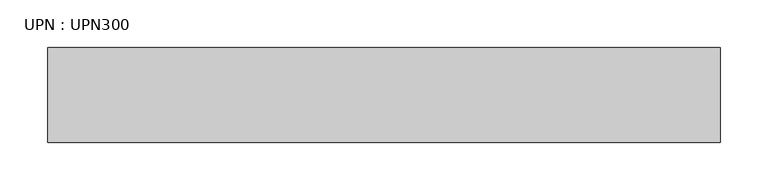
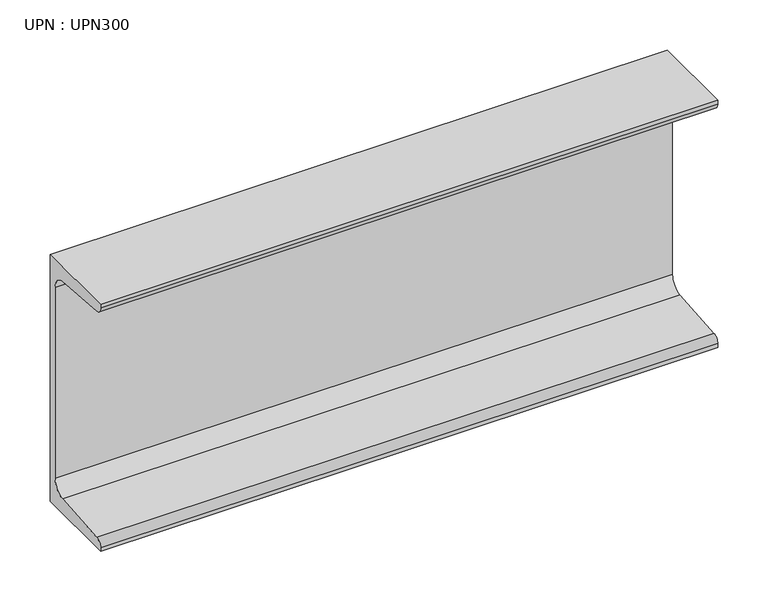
"""IFC4 building model written with IfcOpenShell, lengths in millimetres: beam geometry, UPN : UPN300."""

import ifcopenshell
import ifcopenshell.guid

model = None  # the IFC model being written
_history = None  # IfcOwnerHistory: only IFC2X3 demands one
_inside = {}  # id of a spatial element -> (the spatial element, [elements in it])
_under = {}  # id of a project, library or spatial element -> (it, [spatial elements below it])
_declared = {}  # id of a project -> (the project, [libraries it declares])
_typed = {}  # id of a type object -> (the type object, [elements of that type])
_made_of = {}  # id of a material, layer set ... -> (it, [elements and type objects made of it])


def new_model(schema):
    """Start an empty IFC model of exactly this schema.

    Asked for "IFC4X3", IfcOpenShell would pick the latest addendum, in which some entities
    have other attributes; the version numbers below select the first issue.
    IFC2X3 requires an IfcOwnerHistory on every rooted entity: one is made here for all.
    """
    global model, _history
    if schema == "IFC4X3":
        model = ifcopenshell.file(schema_version=(4, 3, 0, 0))
    else:
        model = ifcopenshell.file(schema=schema)
    _inside.clear()
    _under.clear()
    _declared.clear()
    _typed.clear()
    _made_of.clear()
    _history = None
    if model.schema == "IFC2X3":
        org = make("IfcOrganization", Name="unknown")
        user = make(
            "IfcPersonAndOrganization",
            ThePerson=make("IfcPerson", FamilyName="unknown"),
            TheOrganization=org,
        )
        app = make(
            "IfcApplication",
            ApplicationDeveloper=org,
            Version="unknown",
            ApplicationFullName="unknown",
            ApplicationIdentifier="unknown",
        )
        _history = make(
            "IfcOwnerHistory",
            OwningUser=user,
            OwningApplication=app,
            ChangeAction="ADDED",
            CreationDate=0,
        )
    return model


def make(cls, **values):
    """One entity of the class cls with the attributes given. An attribute that is None is left unset."""
    return model.create_entity(
        cls, **{name: value for name, value in values.items() if value is not None}
    )


def rooted(cls, **values):
    """An entity with a GlobalId (a new one), such as an element, a storey or a relation."""
    return make(cls, GlobalId=ifcopenshell.guid.new(), OwnerHistory=_history, **values)


def si_unit(unit_type, name, prefix=None):
    """IfcSIUnit, for example si_unit("LENGTHUNIT", "METRE", prefix="MILLI")."""
    return make("IfcSIUnit", UnitType=unit_type, Prefix=prefix, Name=name)


def assignment(units):
    """IfcUnitAssignment: the units of a project."""
    return None if units is None else make("IfcUnitAssignment", Units=units)


def point(xyz):
    """IfcCartesianPoint."""
    return None if xyz is None else make("IfcCartesianPoint", Coordinates=xyz)


def direction(xyz):
    """IfcDirection."""
    return None if xyz is None else make("IfcDirection", DirectionRatios=xyz)


def frame(location, z_axis=None, x_axis=None):
    """IfcAxis2Placement3D, a coordinate frame: its origin and axes. An axis left out is left unset."""
    return make(
        "IfcAxis2Placement3D",
        Location=point(location),
        Axis=direction(z_axis),
        RefDirection=direction(x_axis),
    )


def frame_2d(location, x_axis=None):
    """IfcAxis2Placement2D, a coordinate frame in the plane: its origin and x axis."""
    return make(
        "IfcAxis2Placement2D", Location=point(location), RefDirection=direction(x_axis)
    )


def origin():
    """The frame at (0, 0, 0) with its axes left unset."""
    return frame((0.0, 0.0, 0.0))


def place(relative_to, where):
    """IfcLocalPlacement: puts the frame where relative to a parent placement (None: the world)."""
    return make(
        "IfcLocalPlacement", PlacementRelTo=relative_to, RelativePlacement=where
    )


def context(
    kind, dimensions, precision=None, world=None, true_north=None, identifier=None
):
    """IfcGeometricRepresentationContext, for example the 3D "Model" context."""
    return make(
        "IfcGeometricRepresentationContext",
        ContextIdentifier=identifier,
        ContextType=kind,
        CoordinateSpaceDimension=dimensions,
        Precision=precision,
        WorldCoordinateSystem=world,
        TrueNorth=true_north,
    )


def project(units=None, contexts=None):
    """IfcProject with its units and contexts."""
    return rooted(
        "IfcProject",
        Name="project",
        RepresentationContexts=contexts,
        UnitsInContext=assignment(units),
    )


def spatial(cls, under=None, at=None, **own):
    """A site, building, storey or space (cls), placed at a placement, below another one or the project."""
    s = rooted(cls, ObjectPlacement=at, **own)
    if under is not None:
        _under.setdefault(under.id(), (under, []))[1].append(s)
    return s


def polyline(points):
    """IfcPolyline through the points."""
    return make("IfcPolyline", Points=[point(p) for p in points])


def circle_curve(where, radius):
    """IfcCircle in the frame where."""
    return make("IfcCircle", Position=where, Radius=radius)


def trimmed(basis, trim1, trim2, sense, master):
    """IfcTrimmedCurve: the piece of a basis curve between two trims."""
    return make(
        "IfcTrimmedCurve",
        BasisCurve=basis,
        Trim1=trim1,
        Trim2=trim2,
        SenseAgreement=sense,
        MasterRepresentation=master,
    )


def segment(curve, same_sense, transition):
    """IfcCompositeCurveSegment."""
    return make(
        "IfcCompositeCurveSegment",
        Transition=transition,
        SameSense=same_sense,
        ParentCurve=curve,
    )


def composite_curve(segments, self_intersect=None):
    """IfcCompositeCurve: segments joined end to end."""
    return make("IfcCompositeCurve", Segments=segments, SelfIntersect=self_intersect)


def outline(outer, holes=None, kind="AREA"):
    """IfcArbitraryClosedProfileDef: a profile drawn as a closed curve; with holes, ...WithVoids."""
    if holes is None:
        return make("IfcArbitraryClosedProfileDef", ProfileType=kind, OuterCurve=outer)
    return make(
        "IfcArbitraryProfileDefWithVoids",
        ProfileType=kind,
        OuterCurve=outer,
        InnerCurves=holes,
    )


def extrude(swept, where, along, depth):
    """IfcExtrudedAreaSolid: the profile swept, set in the frame where, extruded along a direction by depth."""
    return make(
        "IfcExtrudedAreaSolid",
        SweptArea=swept,
        Position=where,
        ExtrudedDirection=direction(along),
        Depth=depth,
    )


def shape(context_of_items, identifier, shape_type, items):
    """IfcShapeRepresentation: the items that make up one representation, for example the "Body"."""
    return make(
        "IfcShapeRepresentation",
        ContextOfItems=context_of_items,
        RepresentationIdentifier=identifier,
        RepresentationType=shape_type,
        Items=items,
    )


def source(mapping_origin, context_of_items, identifier, shape_type, items):
    """IfcRepresentationMap: a shape defined once, which mapped items show again and again."""
    return make(
        "IfcRepresentationMap",
        MappingOrigin=mapping_origin,
        MappedRepresentation=shape(context_of_items, identifier, shape_type, items),
    )


def transform(
    local_origin,
    x_axis=None,
    y_axis=None,
    z_axis=None,
    scale=None,
    scale2=None,
    scale3=None,
    uniform=True,
):
    """IfcCartesianTransformationOperator3D, or its non-uniform kind. x_axis, y_axis, z_axis: its Axis1, 2, 3."""
    if uniform:
        return make(
            "IfcCartesianTransformationOperator3D",
            Axis1=direction(x_axis),
            Axis2=direction(y_axis),
            LocalOrigin=point(local_origin),
            Scale=scale,
            Axis3=direction(z_axis),
        )
    return make(
        "IfcCartesianTransformationOperator3DnonUniform",
        Axis1=direction(x_axis),
        Axis2=direction(y_axis),
        LocalOrigin=point(local_origin),
        Scale=scale,
        Axis3=direction(z_axis),
        Scale2=scale2,
        Scale3=scale3,
    )


def mapped(mapping_source, mapping_target):
    """IfcMappedItem: shows the shape of a source again, moved by a transform."""
    return make(
        "IfcMappedItem", MappingSource=mapping_source, MappingTarget=mapping_target
    )


def made_of(thing, what):
    """Note that an element or type object is made of a material, layer set ...; save() writes the relation."""
    if what is not None:
        _made_of.setdefault(what.id(), (what, []))[1].append(thing)
    return thing


def element(
    cls,
    number,
    at=None,
    inside=None,
    cuts=None,
    type_object=None,
    material=None,
    context=None,
    identifier="Body",
    shape_type=None,
    held_by="IfcProductDefinitionShape",
    body=None,
    shapes=None,
    **own,
):
    """One element of the class cls, such as IfcWall. Its Tag is "e" and its number.

    at: its placement. inside: the storey or other place that contains it. cuts: it is an
    opening in that element (IfcRelVoidsElement). A single representation is given by context,
    identifier, shape_type and body (its items); several are given by shapes. held_by: the class
    of the entity that holds the representations. save() writes the other relations.
    """
    e = rooted(cls, Tag="e%d" % number, ObjectPlacement=at, **own)
    if body is not None:
        shapes = [shape(context, identifier, shape_type, body)]
    if shapes is not None:
        e.Representation = make(held_by, Representations=shapes)
    if inside is not None:
        _inside.setdefault(inside.id(), (inside, []))[1].append(e)
    if cuts is not None:
        rooted(
            "IfcRelVoidsElement", RelatingBuildingElement=cuts, RelatedOpeningElement=e
        )
    if type_object is not None:
        _typed.setdefault(type_object.id(), (type_object, []))[1].append(e)
    return made_of(e, material)


def aggregate(whole, parts):
    """IfcRelAggregates: a whole, such as a stair, and the parts it consists of."""
    return rooted("IfcRelAggregates", RelatingObject=whole, RelatedObjects=parts)


def save(model, path):
    """Write the relations noted so far, then the file.

    IfcRelAggregates (storeys below a building ...), IfcRelContainedInSpatialStructure (elements
    in a storey), IfcRelDefinesByType, IfcRelAssociatesMaterial and IfcRelDeclares: one each for
    every whole, place, type object, material and project.
    """
    for whole, parts in _under.values():
        aggregate(whole, parts)
    for where, things in _inside.values():
        rooted(
            "IfcRelContainedInSpatialStructure",
            RelatedElements=things,
            RelatingStructure=where,
        )
    for kind, things in _typed.values():
        rooted("IfcRelDefinesByType", RelatedObjects=things, RelatingType=kind)
    for what, things in _made_of.values():
        rooted("IfcRelAssociatesMaterial", RelatedObjects=things, RelatingMaterial=what)
    for by, libraries in _declared.values():
        rooted("IfcRelDeclares", RelatingContext=by, RelatedDefinitions=libraries)
    model.write(path)


def upn_upn300_fed2250c(model_context):
    return source(origin(), model_context, "Body", "SweptSolid", [
        extrude(outline(composite_curve([segment(polyline([(27.0, 150.0), (27.0, -150.0), (-73.0, -150.0), (-73.0, -145.3826224)]), True, "CONTINUOUS"), segment(trimmed(circle_curve(frame_2d((-65.0, -145.3826224)), 8.0), [point((-73.0, -145.3826224))], [point((-65.637416, -137.4080566))], False, "CARTESIAN"), True, "CONTINUOUS"), segment(polyline([(-65.637416, -137.4080566), (2.274832, -131.9797543)]), True, "CONTINUOUS"), segment(trimmed(circle_curve(frame_2d((1.0, -116.0306225)), 16.0), [point((2.274832, -131.9797543))], [point((17.0, -116.0306225))], True, "CARTESIAN"), True, "CONTINUOUS"), segment(polyline([(17.0, -116.0306225), (17.0, 116.0306225)]), True, "CONTINUOUS"), segment(trimmed(circle_curve(frame_2d((1.0, 116.0306225)), 16.0), [point((17.0, 116.0306225))], [point((2.274832, 131.9797543))], True, "CARTESIAN"), True, "CONTINUOUS"), segment(polyline([(2.274832, 131.9797543), (-65.637416, 137.4080566)]), True, "CONTINUOUS"), segment(trimmed(circle_curve(frame_2d((-65.0, 145.3826224)), 8.0), [point((-65.637416, 137.4080566))], [point((-73.0, 145.3826224))], False, "CARTESIAN"), True, "CONTINUOUS"), segment(polyline([(-73.0, 145.3826224), (-73.0, 150.0), (27.0, 150.0)]), True, "CONTINUOUS")], self_intersect=False)), frame((-353.05, 0.0, 0.0), z_axis=(1.0, 0.0, 0.0), x_axis=(0.0, 1.0, 0.0)), (0.0, 0.0, 1.0), 708.1),
    ])


if __name__ == "__main__":
    model = new_model("IFC4")
    model_context = context("Model", 3, world=origin())
    ifc_project = project(units=[si_unit("LENGTHUNIT", "METRE", prefix="MILLI")], contexts=[model_context])
    site = spatial("IfcSite", under=ifc_project)
    building = spatial("IfcBuilding", under=site)
    placement = place(None, origin())
    upn_upn300_shape = upn_upn300_fed2250c(model_context)
    element("IfcBeam", 1, ObjectType="UPN : UPN300", at=placement, inside=building, context=model_context, shape_type="MappedRepresentation", body=[
        mapped(upn_upn300_shape, transform((0.0, 0.0, 0.0), x_axis=(1.0, 0.0, 0.0), y_axis=(0.0, 1.0, 0.0), z_axis=(0.0, 0.0, 1.0))),
    ])
    save(model, "model.ifc")
